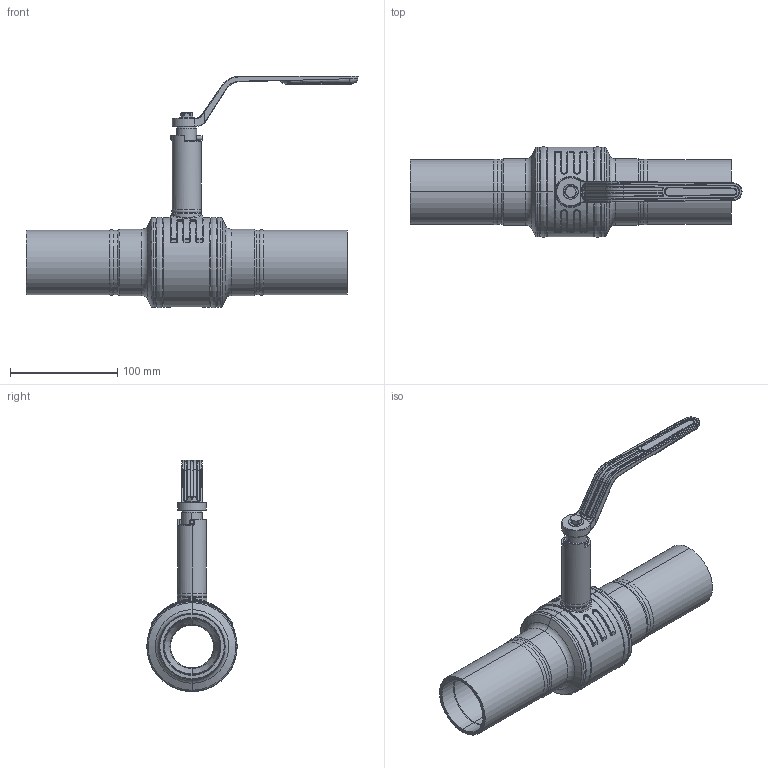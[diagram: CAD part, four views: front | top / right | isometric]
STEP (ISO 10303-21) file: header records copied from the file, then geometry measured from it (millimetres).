
FILE_DESCRIPTION((''),'2;1');
FILE_NAME('KHMO-S-R-H-050R040P04_SW0001','2022-10-18T15:44:06',('jeitlers'),('KLINGER'),'CREO PARAMETRIC BY PTC INC, 2020184','CREO PARAMETRIC BY PTC INC, 2020184','');
FILE_SCHEMA(('AUTOMOTIVE_DESIGN { 1 0 10303 214 1 1 1 1 }'));
Length unit declared in the file: millimetre
Products named in the file (1): KHMO-S-R-H-050R040P04_SW0001
Bounding box: 310 x 84.45 x 216.02 mm (x, y, z)
Volume: 467693.1 mm3; surface area: 185391.7 mm2
Topology: 1 solids, 1 shells, 764 faces, 1718 edges, 984 vertices
Faces by surface type: cylinder 245, torus 145, plane 131, bspline 130, cone 100, sphere 8, extrusion 5
Entity records: 40653 total; most frequent: CARTESIAN_POINT 23257, DIRECTION 3495, ORIENTED_EDGE 3432, EDGE_CURVE 1716, AXIS2_PLACEMENT_3D 1476, VERTEX_POINT 984, CIRCLE 834, EDGE_LOOP 806
